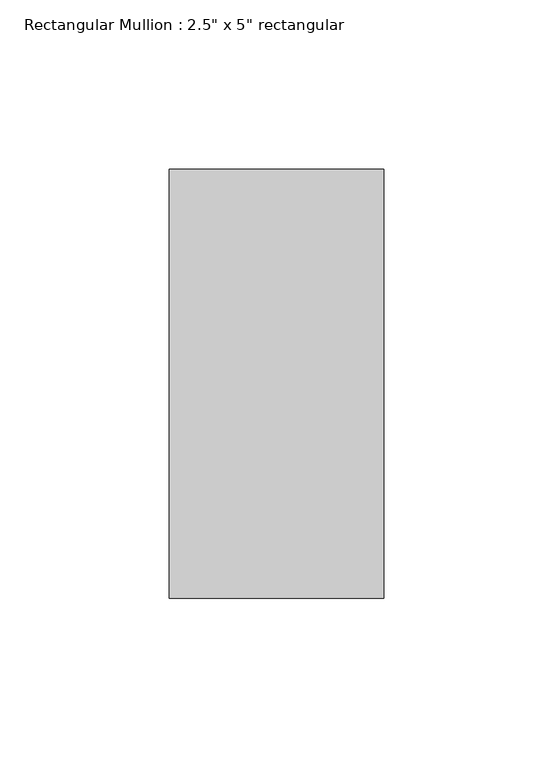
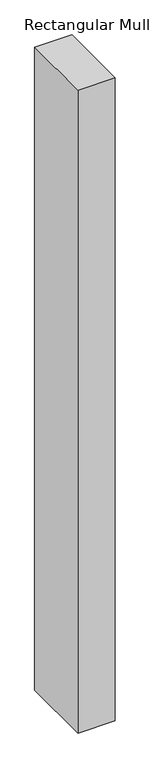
"""IFC4 building model written with IfcOpenShell, lengths in millimetres: member geometry."""

from ifc_helpers import new_model, si_unit, frame, origin, place, context, project, spatial, polyline, outline, extrude, source, transform, mapped, element, save


def member_0585f7b2(model_context):
    return source(origin(), model_context, "Body", "SweptSolid", [
        extrude(outline(polyline([(31.75, 63.5), (31.75, -63.5), (-31.75, -63.5), (-31.75, 63.5), (31.75, 63.5)])), frame((0.0, 0.0, -1155.7), z_axis=(0.0, 0.0, 1.0), x_axis=(1.0, 0.0, 0.0)), (0.0, 0.0, 1.0), 1155.7),
    ])


if __name__ == "__main__":
    model = new_model("IFC4")
    model_context = context("Model", 3, world=origin())
    ifc_project = project(units=[si_unit("LENGTHUNIT", "METRE", prefix="MILLI")], contexts=[model_context])
    site = spatial("IfcSite", under=ifc_project)
    building = spatial("IfcBuilding", under=site)
    placement = place(None, origin())
    member_shape = member_0585f7b2(model_context)
    element("IfcMember", 1, ObjectType="Rectangular Mullion : 2.5\" x 5\" rectangular", at=placement, inside=building, context=model_context, shape_type="MappedRepresentation", body=[
        mapped(member_shape, transform((0.0, 0.0, 0.0), x_axis=(1.0, 0.0, 0.0), y_axis=(0.0, 1.0, 0.0), z_axis=(0.0, 0.0, 1.0))),
    ])
    save(model, "model.ifc")
